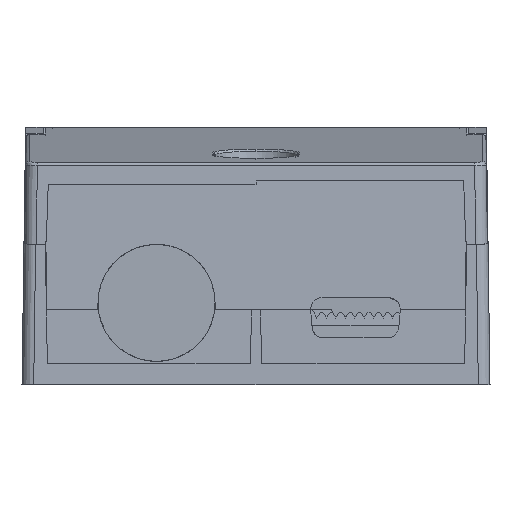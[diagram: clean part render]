
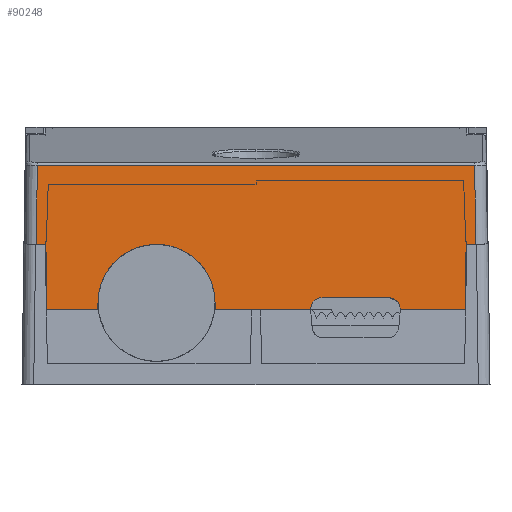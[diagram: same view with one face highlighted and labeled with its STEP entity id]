
A CAD part, front view. The second image highlights one B-rep face of the part: STEP entity #90248.
In plain terms, the highlighted planar face has unit normal (0, -0.999, 0.035).
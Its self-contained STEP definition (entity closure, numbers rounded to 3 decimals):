
#82255=CARTESIAN_POINT('',(18.689,-199.346,
18.735));
#82272=DIRECTION('',(-0.014,0.035,0.999));
#82273=VECTOR('',#82272,6.757);
#82274=CARTESIAN_POINT('',(18.783,-199.582,
11.983));
#82275=LINE('',#82274,#82273);
#82279=DIRECTION('',(1.,0.,0.));
#82280=VECTOR('',#82279,0.822);
#82281=CARTESIAN_POINT('',(17.962,-199.582,
11.983));
#82282=LINE('',#82281,#82280);
#82286=DIRECTION('',(0.018,0.035,0.999));
#82287=VECTOR('',#82286,5.587);
#82288=CARTESIAN_POINT('',(17.863,-199.777,6.4));
#82289=LINE('',#82288,#82287);
#82293=DIRECTION('',(1.,0.,0.));
#82294=VECTOR('',#82293,5.515);
#82295=CARTESIAN_POINT('',(12.349,-199.777,6.4));
#82296=LINE('',#82295,#82294);
#82300=DIRECTION('',(0.087,-0.035,-0.996));
#82301=VECTOR('',#82300,0.151);
#82302=CARTESIAN_POINT('',(12.336,-199.771,
6.551));
#82303=LINE('',#82302,#82301);
#82307=CARTESIAN_POINT('',(11.339,-199.739,
7.464));
#82308=CARTESIAN_POINT('',(11.492,-199.739,
7.464));
#82309=CARTESIAN_POINT('',(11.74,-199.742,
7.401));
#82310=CARTESIAN_POINT('',(12.028,-199.748,
7.215));
#82311=CARTESIAN_POINT('',(12.239,-199.757,
6.945));
#82312=CARTESIAN_POINT('',(12.322,-199.766,
6.703));
#82313=CARTESIAN_POINT('',(12.336,-199.771,
6.551));
#82318=DIRECTION('',(1.,0.,0.));
#82319=VECTOR('',#82318,5.679);
#82320=CARTESIAN_POINT('',(5.661,-199.739,
7.464));
#82321=LINE('',#82320,#82319);
#82325=CARTESIAN_POINT('',(4.664,-199.771,
6.551));
#82326=CARTESIAN_POINT('',(4.678,-199.766,
6.703));
#82327=CARTESIAN_POINT('',(4.761,-199.757,
6.945));
#82328=CARTESIAN_POINT('',(4.972,-199.748,
7.215));
#82329=CARTESIAN_POINT('',(5.26,-199.742,
7.401));
#82330=CARTESIAN_POINT('',(5.508,-199.739,
7.464));
#82331=CARTESIAN_POINT('',(5.661,-199.739,
7.464));
#82336=DIRECTION('',(0.087,0.035,0.996));
#82337=VECTOR('',#82336,0.151);
#82338=CARTESIAN_POINT('',(4.651,-199.777,6.4));
#82339=LINE('',#82338,#82337);
#82343=DIRECTION('',(-1.,0.,0.));
#82344=VECTOR('',#82343,8.12);
#82345=CARTESIAN_POINT('',(4.651,-199.777,6.4));
#82346=LINE('',#82345,#82344);
#82350=DIRECTION('',(-0.052,0.035,0.998));
#82351=VECTOR('',#82350,0.601);
#82352=CARTESIAN_POINT('',(-3.469,-199.777,6.4));
#82353=LINE('',#82352,#82351);
#82357=DIRECTION('',(-0.052,-0.035,-0.998));
#82358=VECTOR('',#82357,0.601);
#82359=CARTESIAN_POINT('',(-13.5,-199.756,7.));
#82360=LINE('',#82359,#82358);
#82364=DIRECTION('',(-1.,0.,0.));
#82365=VECTOR('',#82364,4.332);
#82366=CARTESIAN_POINT('',(-13.531,-199.777,6.4));
#82367=LINE('',#82366,#82365);
#82371=DIRECTION('',(-0.018,0.035,0.999));
#82372=VECTOR('',#82371,5.587);
#82373=CARTESIAN_POINT('',(-17.863,-199.777,6.4));
#82374=LINE('',#82373,#82372);
#82378=DIRECTION('',(-1.,0.,0.));
#82379=VECTOR('',#82378,0.822);
#82380=CARTESIAN_POINT('',(-17.962,-199.582,
11.983));
#82381=LINE('',#82380,#82379);
#82385=DIRECTION('',(0.014,0.035,0.999));
#82386=VECTOR('',#82385,6.757);
#82387=CARTESIAN_POINT('',(-18.783,-199.582,
11.983));
#82388=LINE('',#82387,#82386);
#82392=DIRECTION('',(-1.,0.,0.));
#82393=VECTOR('',#82392,37.378);
#82394=CARTESIAN_POINT('',(18.689,-199.346,
18.735));
#82395=LINE('',#82394,#82393);
#82527=CARTESIAN_POINT('',(-18.689,-199.346,
18.735));
#82727=CARTESIAN_POINT('',(-13.5,-199.756,7.));
#82728=CARTESIAN_POINT('',(-13.5,-199.735,
7.589));
#82729=CARTESIAN_POINT('',(-13.286,-199.691,
8.863));
#82730=CARTESIAN_POINT('',(-12.332,-199.639,
10.343));
#82731=CARTESIAN_POINT('',(-11.252,-199.608,
11.217));
#82732=CARTESIAN_POINT('',(-10.347,-199.592,
11.682));
#82733=CARTESIAN_POINT('',(-9.403,-199.583,
11.948));
#82734=CARTESIAN_POINT('',(-8.5,-199.58,
12.026));
#82735=CARTESIAN_POINT('',(-7.597,-199.583,
11.948));
#82736=CARTESIAN_POINT('',(-6.653,-199.592,
11.682));
#82737=CARTESIAN_POINT('',(-5.748,-199.608,
11.217));
#82738=CARTESIAN_POINT('',(-4.668,-199.639,
10.343));
#82739=CARTESIAN_POINT('',(-3.714,-199.691,
8.863));
#82740=CARTESIAN_POINT('',(-3.5,-199.735,7.589));
#82741=CARTESIAN_POINT('',(-3.5,-199.756,7.));
#85067=CARTESIAN_POINT('',(-3.469,-199.777,6.4));
#85069=VERTEX_POINT('',#85067);
#85070=CARTESIAN_POINT('',(-3.5,-199.756,7.));
#85071=VERTEX_POINT('',#85070);
#85075=CARTESIAN_POINT('',(-13.5,-199.756,7.));
#85076=VERTEX_POINT('',#85075);
#85077=CARTESIAN_POINT('',(-13.531,-199.777,6.4));
#85078=VERTEX_POINT('',#85077);
#85081=CARTESIAN_POINT('',(-17.863,-199.777,6.4));
#85082=VERTEX_POINT('',#85081);
#85141=CARTESIAN_POINT('',(-17.962,-199.582,
11.983));
#85143=VERTEX_POINT('',#85141);
#85149=VERTEX_POINT('',#82527);
#85150=CARTESIAN_POINT('',(-18.783,-199.582,
11.983));
#85151=VERTEX_POINT('',#85150);
#85299=CARTESIAN_POINT('',(4.651,-199.777,6.4));
#85301=VERTEX_POINT('',#85299);
#85305=CARTESIAN_POINT('',(4.664,-199.771,
6.551));
#85306=VERTEX_POINT('',#85305);
#85308=CARTESIAN_POINT('',(5.661,-199.739,
7.464));
#85309=VERTEX_POINT('',#85308);
#85312=CARTESIAN_POINT('',(11.339,-199.739,
7.464));
#85313=VERTEX_POINT('',#85312);
#85315=CARTESIAN_POINT('',(12.336,-199.771,
6.551));
#85316=VERTEX_POINT('',#85315);
#85318=CARTESIAN_POINT('',(12.349,-199.777,6.4));
#85320=VERTEX_POINT('',#85318);
#85323=CARTESIAN_POINT('',(17.863,-199.777,6.4));
#85324=VERTEX_POINT('',#85323);
#85326=CARTESIAN_POINT('',(17.962,-199.582,
11.983));
#85328=VERTEX_POINT('',#85326);
#85329=CARTESIAN_POINT('',(18.783,-199.582,
11.983));
#85330=VERTEX_POINT('',#85329);
#85352=VERTEX_POINT('',#82255);
#90208=CARTESIAN_POINT('',(0.,-200.,0.));
#90209=DIRECTION('',(0.,0.999,-0.035));
#90210=DIRECTION('',(0.,-0.035,-0.999));
#90211=AXIS2_PLACEMENT_3D('',#90208,#90209,#90210);
#90212=PLANE('',#90211);
#90214=ORIENTED_EDGE('',*,*,#90213,.F.);
#90215=ORIENTED_EDGE('',*,*,#90199,.F.);
#90216=ORIENTED_EDGE('',*,*,#87164,.F.);
#90218=ORIENTED_EDGE('',*,*,#90217,.F.);
#90220=ORIENTED_EDGE('',*,*,#90219,.F.);
#90222=ORIENTED_EDGE('',*,*,#90221,.F.);
#90224=ORIENTED_EDGE('',*,*,#90223,.F.);
#90226=ORIENTED_EDGE('',*,*,#90225,.F.);
#90228=ORIENTED_EDGE('',*,*,#90227,.F.);
#90230=ORIENTED_EDGE('',*,*,#90229,.F.);
#90232=ORIENTED_EDGE('',*,*,#90231,.T.);
#90234=ORIENTED_EDGE('',*,*,#90233,.T.);
#90236=ORIENTED_EDGE('',*,*,#90235,.F.);
#90238=ORIENTED_EDGE('',*,*,#90237,.T.);
#90240=ORIENTED_EDGE('',*,*,#90239,.T.);
#90242=ORIENTED_EDGE('',*,*,#90241,.T.);
#90243=ORIENTED_EDGE('',*,*,#85517,.T.);
#90245=ORIENTED_EDGE('',*,*,#90244,.T.);
#90246=EDGE_LOOP('',(#90214,#90215,#90216,#90218,#90220,#90222,#90224,#90226,
#90228,#90230,#90232,#90234,#90236,#90238,#90240,#90242,#90243,#90245));
#90247=FACE_OUTER_BOUND('',#90246,.F.);
#82314=B_SPLINE_CURVE_WITH_KNOTS('',3,(#82307,#82308,#82309,#82310,#82311,
#82312,#82313),.UNSPECIFIED.,.F.,.F.,(4,1,1,1,4),(0.,0.25,0.5,0.75,
1.),.UNSPECIFIED.);
#82332=B_SPLINE_CURVE_WITH_KNOTS('',3,(#82325,#82326,#82327,#82328,#82329,
#82330,#82331),.UNSPECIFIED.,.F.,.F.,(4,1,1,1,4),(0.,0.25,0.5,0.75,
1.),.UNSPECIFIED.);
#82742=B_SPLINE_CURVE_WITH_KNOTS('',3,(#82727,#82728,#82729,#82730,#82731,
#82732,#82733,#82734,#82735,#82736,#82737,#82738,#82739,#82740,#82741),
.UNSPECIFIED.,.F.,.F.,(4,1,1,1,1,1,1,1,1,1,1,1,4),(0.,0.125,0.25,0.313,
0.375,0.438,0.5,0.563,0.625,0.688,0.75,0.875,1.),
.UNSPECIFIED.);
#85517=EDGE_CURVE('',#85143,#85151,#82381,.T.);
#87164=EDGE_CURVE('',#85328,#85330,#82282,.T.);
#90199=EDGE_CURVE('',#85330,#85352,#82275,.T.);
#90213=EDGE_CURVE('',#85352,#85149,#82395,.T.);
#90217=EDGE_CURVE('',#85324,#85328,#82289,.T.);
#90219=EDGE_CURVE('',#85320,#85324,#82296,.T.);
#90221=EDGE_CURVE('',#85316,#85320,#82303,.T.);
#90223=EDGE_CURVE('',#85313,#85316,#82314,.T.);
#90225=EDGE_CURVE('',#85309,#85313,#82321,.T.);
#90227=EDGE_CURVE('',#85306,#85309,#82332,.T.);
#90229=EDGE_CURVE('',#85301,#85306,#82339,.T.);
#90231=EDGE_CURVE('',#85301,#85069,#82346,.T.);
#90233=EDGE_CURVE('',#85069,#85071,#82353,.T.);
#90235=EDGE_CURVE('',#85076,#85071,#82742,.T.);
#90237=EDGE_CURVE('',#85076,#85078,#82360,.T.);
#90239=EDGE_CURVE('',#85078,#85082,#82367,.T.);
#90241=EDGE_CURVE('',#85082,#85143,#82374,.T.);
#90244=EDGE_CURVE('',#85151,#85149,#82388,.T.);
#90248=ADVANCED_FACE('',(#90247),#90212,.F.);
